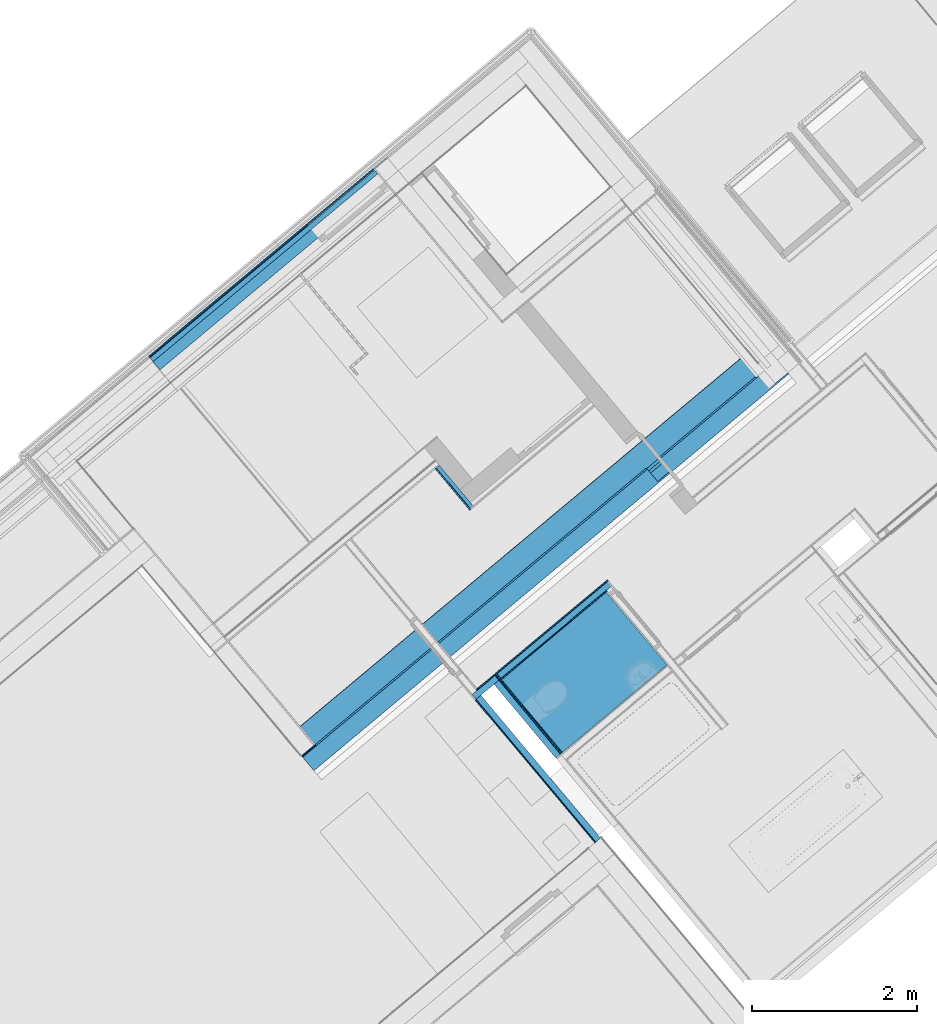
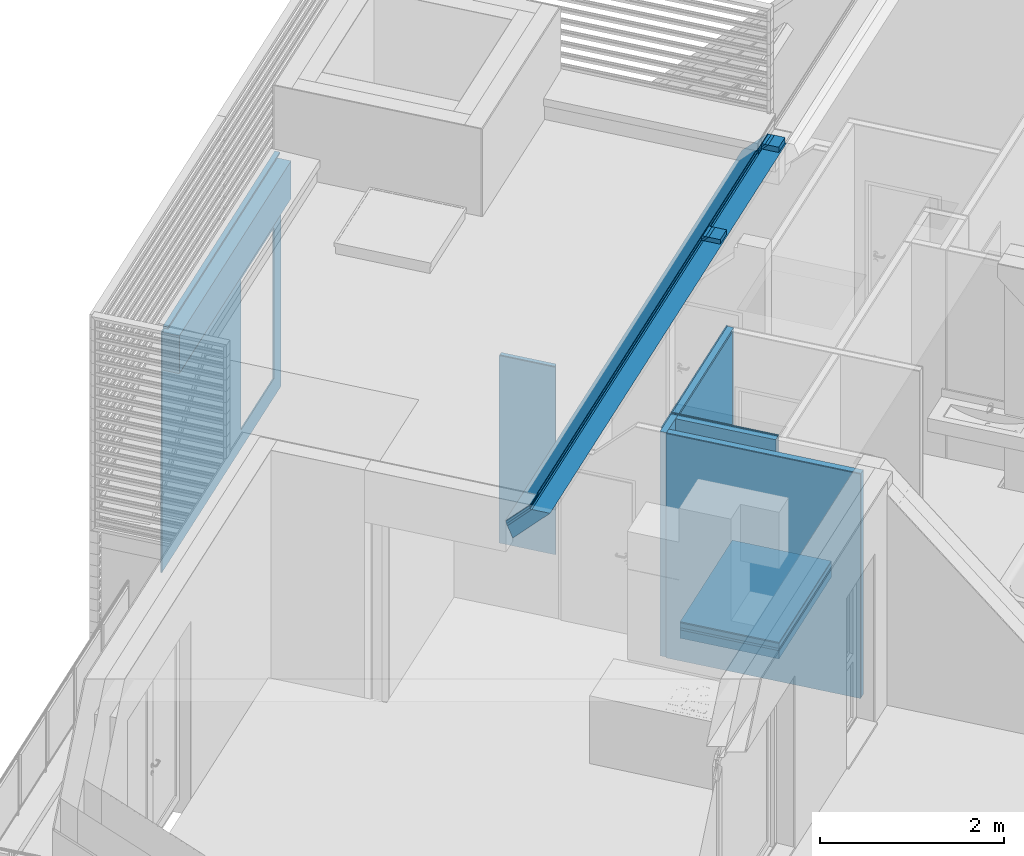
# One storey, part 25 of 50: 24 building element parts, 1 opening, 9 elements without a shape of their own.
"""IFC4 building model written with IfcOpenShell, lengths in metres."""

from ifc_helpers import new_model, entity, si_unit, converted_unit, derived_unit, direction, frame, origin_with_axes, place, context, subcontext, project, spatial, polygons, material, type_object, element, aggregate, save


model = new_model("IFC4")

# Units and contexts
model_context = context("Model", 3, precision=1e-05, world=origin_with_axes(), true_north=direction((0.0, 1.0)))
body_context = subcontext(model_context, "Body", "Model", "MODEL_VIEW")
ifc_project = project(units=[si_unit("LENGTHUNIT", "METRE"), si_unit("AREAUNIT", "SQUARE_METRE"), si_unit("VOLUMEUNIT", "CUBIC_METRE"), converted_unit("PLANEANGLEUNIT", "DEGREE", entity("IfcPlaneAngleMeasure", 0.0174532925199), si_unit("PLANEANGLEUNIT", "RADIAN"), dimensions=[0, 0, 0, 0, 0, 0, 0]), converted_unit("TIMEUNIT", "Year", entity("IfcTimeMeasure", 31556926.0), si_unit("TIMEUNIT", "SECOND"), dimensions=[0, 0, 1, 0, 0, 0, 0]), si_unit("MASSUNIT", "GRAM", prefix="KILO"), si_unit("THERMODYNAMICTEMPERATUREUNIT", "DEGREE_CELSIUS"), si_unit("LUMINOUSINTENSITYUNIT", "LUMEN"), si_unit("ENERGYUNIT", "JOULE", prefix="MEGA"), derived_unit("THERMALCONDUCTANCEUNIT", [(si_unit("POWERUNIT", "WATT"), 1), (si_unit("LENGTHUNIT", "METRE"), -1), (si_unit("THERMODYNAMICTEMPERATUREUNIT", "KELVIN"), -1)]), derived_unit("SPECIFICHEATCAPACITYUNIT", [(si_unit("ENERGYUNIT", "JOULE"), 1), (si_unit("MASSUNIT", "GRAM", prefix="KILO"), -1), (si_unit("THERMODYNAMICTEMPERATUREUNIT", "KELVIN"), -1)]), derived_unit("MASSDENSITYUNIT", [(si_unit("MASSUNIT", "GRAM", prefix="KILO"), 1), (si_unit("VOLUMEUNIT", "CUBIC_METRE"), -1)])], contexts=[model_context])

# Site, building, storey
site_placement = place(None, frame((-0.00153261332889, -0.00661245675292, 0.0), z_axis=(0.0, 0.0, 1.0), x_axis=(1.0, 0.0, 0.0)))
site = spatial("IfcSite", under=ifc_project, at=site_placement, Name="Gelände", CompositionType="ELEMENT")
building_placement = place(site_placement, origin_with_axes())
building = spatial("IfcBuilding", under=site, at=building_placement, Name="Gebäude", CompositionType="ELEMENT")
storey_placement = place(building_placement, frame((0.0, 0.0, 8.66), z_axis=(0.0, 0.0, 1.0), x_axis=(1.0, 0.0, 0.0)))
storey = spatial("IfcBuildingStorey", under=building, at=storey_placement, Name="DG2", CompositionType="ELEMENT", Elevation=8.66)

# Wall, building element parts
wall_type_1 = type_object("IfcWallType", Name="LB 9,0 cm einfache Vorsatzschale  90", PredefinedType="NOTDEFINED")
wall_1_placement = place(storey_placement, frame((2.50035930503, 17.974688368, 0.0), z_axis=(0.0, 0.0, 1.0), x_axis=(-0.642552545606, 0.766241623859, 0.0)))
wall_1 = element("IfcWall", 1, at=wall_1_placement, inside=storey, type_object=wall_type_1, Name="Wand-006", PredefinedType="NOTDEFINED")
ifc_material_1 = material(Name="Gipskarton")
building_element_part_1_placement = place(wall_1_placement, origin_with_axes())
building_element_part_1 = element("IfcBuildingElementPart", 2, at=building_element_part_1_placement, material=ifc_material_1, Name="Gipskarton", PredefinedType="NOTDEFINED", context=body_context, shape_type="Tessellation", body=[
    polygons([(2.25310830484, 0.09, 0.0), (2.25310830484, 0.075, 0.0), (0.0, 0.075, 0.0), (0.0, 0.09, 0.0), (2.25310830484, 0.09, 2.98), (2.25310830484, 0.075, 2.98), (0.0, 0.075, 2.98), (0.0, 0.09, 2.98)], [[[1, 2, 3, 4]], [[1, 5, 6, 2]], [[2, 6, 7, 3]], [[4, 3, 7, 8]], [[5, 1, 4, 8]], [[6, 5, 8, 7]]], closed=True),
])
ifc_material_2 = material(Name="Mineralwolle weich")
building_element_part_2_placement = place(wall_1_placement, origin_with_axes())
building_element_part_2 = element("IfcBuildingElementPart", 3, at=building_element_part_2_placement, material=ifc_material_2, Name="Mineralwolle weich", PredefinedType="NOTDEFINED", context=body_context, shape_type="Tessellation", body=[
    polygons([(2.25310830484, 0.075, 0.0), (2.25310830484, 0.0555944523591, 0.0), (2.2528775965, 0.0, 0.0), (0.0, 0.0, 0.0), (0.0, 0.075, 0.0), (2.25310830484, 0.075, 2.98), (2.25310830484, 0.0555944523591, 2.98), (2.2528775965, 0.0, 2.98), (0.0, 0.0, 2.98), (0.0, 0.075, 2.98)], [[[1, 2, 3, 4, 5]], [[1, 6, 7, 2]], [[2, 7, 8, 3]], [[8, 9, 4, 3]], [[5, 4, 9, 10]], [[6, 1, 5, 10]], [[7, 6, 10, 9, 8]]], closed=True),
])
aggregate(wall_1, [building_element_part_1, building_element_part_2])

wall_type_2 = type_object("IfcWallType", Name="LB 10,5 cm doppelte Vorsatzschale Bad 105", PredefinedType="NOTDEFINED")
wall_2_placement = place(storey_placement, frame((1.29391531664, 19.901459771, 0.0), z_axis=(0.0, 0.0, 1.0), x_axis=(0.641209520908, -0.767365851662, 0.0)))
wall_2 = element("IfcWall", 4, at=wall_2_placement, inside=storey, type_object=wall_type_2, Name="Wand-004", PredefinedType="NOTDEFINED")
building_element_part_3_placement = place(wall_2_placement, origin_with_axes())
building_element_part_3 = element("IfcBuildingElementPart", 5, at=building_element_part_3_placement, material=ifc_material_1, Name="Gipskarton", PredefinedType="NOTDEFINED", context=body_context, shape_type="Tessellation", body=[
    polygons([(1.16178734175, 0.0, 0.0), (1.16178734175, -0.015, 0.0), (-0.090036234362, -0.015, 0.0), (-0.0900002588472, 0.0, 0.0), (1.16178734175, 0.0, 2.98), (1.16178734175, -0.015, 2.98), (-0.090036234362, -0.015, 2.98), (-0.0900002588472, 0.0, 2.98)], [[[1, 2, 3, 4]], [[1, 5, 6, 2]], [[2, 6, 7, 3]], [[4, 3, 7, 8]], [[5, 1, 4, 8]], [[6, 5, 8, 7]]], closed=True),
])
building_element_part_4_placement = place(wall_2_placement, origin_with_axes())
building_element_part_4 = element("IfcBuildingElementPart", 6, at=building_element_part_4_placement, material=ifc_material_1, Name="Gipskarton", PredefinedType="NOTDEFINED", context=body_context, shape_type="Tessellation", body=[
    polygons([(1.16178734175, -0.015, 0.0), (1.16178734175, -0.03, 0.0), (-0.0750721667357, -0.03, 0.0), (-0.0750361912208, -0.015, 0.0), (1.16178734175, -0.015, 2.98), (1.16178734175, -0.03, 2.98), (-0.0750721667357, -0.03, 2.98), (-0.0750361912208, -0.015, 2.98)], [[[1, 2, 3, 4]], [[1, 5, 6, 2]], [[2, 6, 7, 3]], [[4, 3, 7, 8]], [[5, 1, 4, 8]], [[6, 5, 8, 7]]], closed=True),
])
building_element_part_5_placement = place(wall_2_placement, origin_with_axes())
building_element_part_5 = element("IfcBuildingElementPart", 7, at=building_element_part_5_placement, material=ifc_material_2, Name="Mineralwolle weich", PredefinedType="NOTDEFINED", context=body_context, shape_type="Tessellation", body=[
    polygons([(1.16178734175, -0.03, 0.0), (1.16178734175, -0.105, 0.0), (-0.000251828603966, -0.105, 0.0), (-7.19510297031e-05, -0.03, 0.0), (1.16178734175, -0.03, 2.98), (1.16178734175, -0.105, 2.98), (-0.000251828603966, -0.105, 2.98), (-7.19510297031e-05, -0.03, 2.98)], [[[1, 2, 3, 4]], [[1, 5, 6, 2]], [[2, 6, 7, 3]], [[4, 3, 7, 8]], [[5, 1, 4, 8]], [[6, 5, 8, 7]]], closed=True),
])
aggregate(wall_2, [building_element_part_3, building_element_part_4, building_element_part_5])

wall_type_3 = type_object("IfcWallType", Name="IW LB 01 Leichtbautrennwand einfach 10,5 cm 105", PredefinedType="NOTDEFINED")
wall_3_placement = place(storey_placement, frame((1.30353329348, 19.8899494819, 0.0), z_axis=(0.0, 0.0, 1.0), x_axis=(0.767365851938, 0.641209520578, 0.0)))
wall_3 = element("IfcWall", 8, at=wall_3_placement, inside=storey, type_object=wall_type_3, Name="Wand-013", PredefinedType="NOTDEFINED")
building_element_part_6_placement = place(wall_3_placement, origin_with_axes())
building_element_part_6 = element("IfcBuildingElementPart", 9, at=building_element_part_6_placement, material=ifc_material_1, Name="Gipskarton", PredefinedType="NOTDEFINED", context=body_context, shape_type="Tessellation", body=[
    polygons([(1.75313899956, 0.09, 0.0), (0.0, 0.09, 0.0), (0.0, 0.105, 0.0), (1.7531388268, 0.105, 0.0), (1.75313899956, 0.09, 2.98), (0.0, 0.09, 2.98), (0.0, 0.105, 2.98), (1.7531388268, 0.105, 2.98)], [[[1, 2, 3, 4]], [[5, 6, 2, 1]], [[3, 2, 6, 7]], [[4, 3, 7, 8]], [[4, 8, 5, 1]], [[8, 7, 6, 5]]], closed=True),
])
building_element_part_7_placement = place(wall_3_placement, origin_with_axes())
building_element_part_7 = element("IfcBuildingElementPart", 10, at=building_element_part_7_placement, material=ifc_material_2, Name="Mineralwolle weich", PredefinedType="NOTDEFINED", context=body_context, shape_type="Tessellation", body=[
    polygons([(1.73813986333, 0.015, 0.0), (0.0, 0.015, 0.0), (0.0, 0.09, 0.0), (1.73813899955, 0.09, 0.0), (1.73813986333, 0.015, 2.98), (0.0, 0.015, 2.98), (0.0, 0.09, 2.98), (1.73813899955, 0.09, 2.98)], [[[1, 2, 3, 4]], [[5, 6, 2, 1]], [[3, 2, 6, 7]], [[4, 3, 7, 8]], [[4, 8, 5, 1]], [[8, 7, 6, 5]]], closed=True),
])
building_element_part_8_placement = place(wall_3_placement, origin_with_axes())
building_element_part_8 = element("IfcBuildingElementPart", 11, at=building_element_part_8_placement, material=ifc_material_1, Name="Gipskarton", PredefinedType="NOTDEFINED", context=body_context, shape_type="Tessellation", body=[
    polygons([(1.66314003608, 0.0, 0.0), (0.0, 0.0, 0.0), (0.0, 0.015, 0.0), (1.66313986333, 0.015, 0.0), (1.66314003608, 0.0, 2.98), (0.0, 0.0, 2.98), (0.0, 0.015, 2.98), (1.66313986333, 0.015, 2.98)], [[[1, 2, 3, 4]], [[5, 6, 2, 1]], [[3, 2, 6, 7]], [[4, 3, 7, 8]], [[4, 8, 5, 1]], [[8, 7, 6, 5]]], closed=True),
])
aggregate(wall_3, [building_element_part_6, building_element_part_7, building_element_part_8])

wall_type_4 = type_object("IfcWallType", Name="LB 6,5 cm einfach Vorsatzschale 65", PredefinedType="NOTDEFINED")
wall_4_placement = place(storey_placement, frame((0.443936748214, 22.5065523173, 0.0), z_axis=(0.0, 0.0, 1.0), x_axis=(0.641209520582, -0.767365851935, 0.0)))
wall_4 = element("IfcWall", 12, at=wall_4_placement, inside=storey, type_object=wall_type_4, Name="Wand-005", PredefinedType="NOTDEFINED")
building_element_part_9_placement = place(wall_4_placement, origin_with_axes())
building_element_part_9 = element("IfcBuildingElementPart", 13, at=building_element_part_9_placement, material=ifc_material_2, Name="Mineralwolle weich", PredefinedType="NOTDEFINED", context=body_context, shape_type="Tessellation", body=[
    polygons([(0.0899993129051, 0.065, 0.0), (0.0899961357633, 0.015, 0.0), (0.0899961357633, 0.0149999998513, 2.48999999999), (0.0899993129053, 0.0650000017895, 2.48999999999), (0.727163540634, 0.065, 0.0), (0.727139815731, 0.015, 0.0), (0.727139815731, 0.014999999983, 2.49), (0.727163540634, 0.0650000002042, 2.49)], [[[1, 2, 3, 4]], [[2, 1, 5, 6]], [[3, 2, 6, 7]], [[3, 7, 8, 4]], [[5, 1, 4, 8]], [[7, 6, 5, 8]]], closed=True),
])
building_element_part_10_placement = place(wall_4_placement, origin_with_axes())
building_element_part_10 = element("IfcBuildingElementPart", 14, at=building_element_part_10_placement, material=ifc_material_1, Name="Gipskarton", PredefinedType="NOTDEFINED", context=body_context, shape_type="Tessellation", body=[
    polygons([(0.0899951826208, 0.0, 2.48999999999), (0.0899961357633, 0.0149999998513, 2.48999999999), (0.0899961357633, 0.015, 0.0), (0.0899951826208, 0.0, 0.0), (0.742132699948, 0.0, 2.49), (0.742139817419, 0.0149999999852, 2.49), (0.742139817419, 0.015, 0.0), (0.742132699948, 0.0, 0.0)], [[[1, 2, 3, 4]], [[2, 1, 5, 6]], [[3, 2, 6, 7]], [[4, 3, 7, 8]], [[1, 4, 8, 5]], [[5, 8, 7, 6]]], closed=True),
])
aggregate(wall_4, [building_element_part_9, building_element_part_10])

# Space
space_1_placement = place(storey_placement, frame((-3.1056460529, 21.2099336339, 0.22), z_axis=(0.0, 0.0, 1.0), x_axis=(-0.767365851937, -0.641209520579, 0.0)))
space_1 = spatial("IfcSpace", under=storey, at=space_1_placement, CompositionType="ELEMENT", PredefinedType="NOTDEFINED")

# Roof, building element parts
roof_type = type_object("IfcRoofType", Name="Schrägdach Dachaufbau 210", PredefinedType="NOTDEFINED")
roof_placement = place(space_1_placement, frame((0.125000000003, 1.11099143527, 0.780508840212), z_axis=(0.0, 0.0, 1.0), x_axis=(-0.999999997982, 6.35246525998e-05, 0.0)))
roof = element("IfcRoof", 15, at=roof_placement, inside=space_1, type_object=roof_type, Name="Dach-001", PredefinedType="NOTDEFINED")
ifc_material_3 = material(Name="Stehfalz")
building_element_part_11_placement = place(roof_placement, origin_with_axes())
building_element_part_11 = element("IfcBuildingElementPart", 16, at=building_element_part_11_placement, material=ifc_material_3, Name="Stehfalz", PredefinedType="NOTDEFINED", context=body_context, shape_type="Tessellation", body=[
    polygons([(7.36386656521, -1.90145997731, 2.19844482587), (7.69582473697, -1.90143888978, 2.19842373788), (7.69585686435, -1.59945626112, 1.89644110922), (0.21534161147, -1.5994911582, 1.8964760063), (0.215455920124, -1.9019140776, 2.1988989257), (0.43012079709, -1.90190044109, 2.19888528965), (0.430119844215, -1.88690041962, 2.18388526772), (7.36387213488, -1.88645995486, 2.18344480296), (7.69582521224, -1.90143888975, 2.18949115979), (7.36386656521, -1.90145997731, 2.18430269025), (7.4959184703, -1.90145158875, 2.18429430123), (7.49591847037, -1.90145158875, 2.18949115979), (7.69582493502, -1.90664844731, 2.18949115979), (7.69585717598, -1.60359839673, 1.88644110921), (0.215340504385, -1.60363329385, 1.88647600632), (0.215453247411, -1.90191407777, 2.18475679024), (0.215447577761, -1.88691405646, 2.16975676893), (0.215449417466, -1.8869140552, 2.1794911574), (0.215451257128, -1.89664844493, 2.17949115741), (0.430120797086, -1.90190044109, 2.18474315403), (0.430120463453, -1.89664844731, 2.17949115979), (0.430119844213, -1.88690041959, 2.17949115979), (5.8452008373, -1.88655642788, 2.16939914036), (7.39592402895, -1.88645791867, 2.16930063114), (7.39592402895, -1.88645791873, 2.17818655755), (7.36482942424, -1.88645989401, 2.17818656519), (7.36387213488, -1.88645995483, 2.17914383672), (5.64520081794, -1.88656913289, 2.16941184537), (5.64520081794, -1.88656913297, 2.17949115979), (5.8452008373, -1.88655642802, 2.17949115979), (7.36386848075, -1.89630112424, 2.17914383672), (7.36482612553, -1.89534385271, 2.17818656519), (7.39592072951, -1.89534384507, 2.17818655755), (5.84519699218, -1.89664844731, 2.17949115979), (5.64519697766, -1.89664844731, 2.17949115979), (7.49591654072, -1.90664844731, 2.18949115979)], [[[1, 2, 3, 4, 5, 6, 7, 8]], [[9, 2, 1, 10, 11, 12]], [[2, 9, 13, 14, 3]], [[4, 3, 14, 15]], [[16, 5, 4, 15, 17, 18, 19]], [[20, 6, 5, 16]], [[6, 20, 21, 22, 7]], [[23, 24, 25, 26, 27, 8, 7, 22, 18, 17, 28, 29, 30]], [[10, 1, 8, 27, 31]], [[11, 10, 31, 32, 33, 24, 23, 34, 35, 28, 17, 15, 14, 13, 36]], [[11, 36, 12]], [[36, 13, 9, 12]], [[21, 19, 18, 22]], [[20, 16, 19, 21]], [[24, 33, 25]], [[33, 32, 26, 25]], [[32, 31, 27, 26]], [[28, 35, 29]], [[35, 34, 30, 29]], [[34, 23, 30]]], closed=True),
])
ifc_material_4 = material(Name="Bauholz")
building_element_part_12_placement = place(roof_placement, origin_with_axes())
building_element_part_12 = element("IfcBuildingElementPart", 17, at=building_element_part_12_placement, material=ifc_material_4, Name="Bauholz", PredefinedType="NOTDEFINED", context=body_context, shape_type="Tessellation", body=[
    polygons([(0.215453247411, -1.90191407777, 2.18475679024), (0.430120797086, -1.90190044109, 2.18474315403), (0.430120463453, -1.89664844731, 2.17949115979), (0.215451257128, -1.89664844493, 2.17949115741), (0.430120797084, -1.90190044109, 2.17949115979), (0.215452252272, -1.90191407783, 2.1794911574)], [[[1, 2, 3, 4]], [[5, 2, 1, 6]], [[2, 5, 3]], [[5, 6, 4, 3]], [[6, 1, 4]]], closed=True),
    polygons([(7.49591846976, -1.90145158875, 2.14893896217), (7.39591845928, -1.90145794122, 2.1489453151), (7.39592402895, -1.8864579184, 2.13394529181), (5.8452008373, -1.8865564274, 2.13404380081), (5.84518352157, -1.93200378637, 2.17949115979), (5.64518350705, -1.93200378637, 2.17949115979), (5.64520081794, -1.88656913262, 2.13405650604), (0.215440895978, -1.8869140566, 2.13440143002), (0.215337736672, -1.61398863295, 1.86147600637), (7.69585795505, -1.61395373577, 1.86144110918), (7.69582305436, -1.94200378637, 2.18949115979), (7.4959034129, -1.94200378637, 2.18949115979), (7.4959184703, -1.90145158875, 2.18429430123), (7.36386656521, -1.90145997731, 2.18430269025), (7.36386656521, -1.90145997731, 2.17914383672), (7.36482385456, -1.90145991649, 2.17818656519), (7.39591845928, -1.90145794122, 2.17818655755), (7.39592072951, -1.89534384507, 2.17818655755), (7.39592402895, -1.88645791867, 2.16930063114), (5.8452008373, -1.88655642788, 2.16939914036), (5.84519699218, -1.89664844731, 2.17949115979), (5.64519697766, -1.89664844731, 2.17949115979), (5.64520081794, -1.88656913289, 2.16941184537), (0.215447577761, -1.88691405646, 2.16975676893), (0.215340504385, -1.60363329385, 1.88647600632), (7.69585717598, -1.60359839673, 1.88644110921), (7.69582493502, -1.90664844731, 2.18949115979), (7.49591654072, -1.90664844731, 2.18949115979), (7.36482612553, -1.89534385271, 2.17818656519), (7.36386848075, -1.89630112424, 2.17914383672)], [[[1, 2, 3, 4, 5, 6, 7, 8, 9, 10, 11, 12]], [[13, 14, 15, 16, 17, 2, 1]], [[2, 17, 18, 19, 3]], [[19, 20, 4, 3]], [[5, 4, 20, 21]], [[6, 5, 21, 22]], [[6, 22, 23, 7]], [[23, 24, 8, 7]], [[8, 24, 25, 9]], [[25, 26, 10, 9]], [[27, 11, 10, 26]], [[12, 11, 27, 28]], [[1, 12, 28, 13]], [[28, 27, 26, 25, 24, 23, 22, 21, 20, 19, 18, 29, 30, 14, 13]], [[15, 14, 30]], [[16, 15, 30, 29]], [[17, 16, 29, 18]]], closed=True),
])
ifc_material_5 = material(Name="Luftschicht horizontal")
building_element_part_13_placement = place(roof_placement, origin_with_axes())
building_element_part_13 = element("IfcBuildingElementPart", 18, at=building_element_part_13_placement, material=ifc_material_5, Name="Luftschicht horizontal", PredefinedType="NOTDEFINED", context=body_context, shape_type="Tessellation", body=[
    polygons([(7.69582305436, -1.94200378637, 2.18949115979), (7.69582117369, -1.97735912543, 2.18949115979), (7.69585873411, -1.6243090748, 1.83644110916), (7.69585795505, -1.61395373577, 1.86144110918), (7.49589028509, -1.97735912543, 2.18949115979), (7.4959034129, -1.94200378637, 2.18949115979), (5.64519289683, -1.90735912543, 2.11949115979), (0.215441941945, -1.90735912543, 2.11949115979), (0.215334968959, -1.62434397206, 1.83647600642), (7.49591627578, -1.90735912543, 2.11949115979), (5.84519291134, -1.90735912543, 2.11949115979), (5.84517005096, -1.96735912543, 2.17949115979), (5.64517003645, -1.96735912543, 2.17949115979), (0.215337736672, -1.61398863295, 1.86147600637), (0.215440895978, -1.8869140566, 2.13440143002), (5.64520081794, -1.88656913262, 2.13405650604), (5.64518350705, -1.93200378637, 2.17949115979), (5.84518352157, -1.93200378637, 2.17949115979), (5.8452008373, -1.8865564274, 2.13404380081), (7.39592402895, -1.8864579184, 2.13394529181), (7.39591845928, -1.90145794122, 2.1489453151), (7.49591846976, -1.90145158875, 2.14893896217), (7.49591846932, -1.90145158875, 2.11949115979), (5.64520081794, -1.88656913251, 2.11949115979), (0.215438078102, -1.88691405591, 2.11949115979), (7.39591845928, -1.90145794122, 2.11949115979), (7.39592402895, -1.88645791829, 2.11949115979), (5.8452008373, -1.8865564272, 2.11949115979)], [[[1, 2, 3, 4]], [[5, 2, 1, 6]], [[7, 8, 9, 3, 2, 5, 10, 11, 12, 13]], [[14, 4, 3, 9]], [[6, 1, 4, 14, 15, 16, 17, 18, 19, 20, 21, 22]], [[10, 5, 6, 22, 23]], [[8, 7, 24, 25]], [[8, 25, 15, 14, 9]], [[11, 10, 23, 26, 27, 28]], [[18, 12, 11, 28, 19]], [[13, 12, 18, 17]], [[7, 13, 17, 16, 24]], [[16, 15, 25, 24]], [[20, 19, 28, 27]], [[26, 21, 20, 27]], [[22, 21, 26, 23]]], closed=True),
])
ifc_material_6 = material(Name="EPS 1")
building_element_part_14_placement = place(roof_placement, origin_with_axes())
building_element_part_14 = element("IfcBuildingElementPart", 19, at=building_element_part_14_placement, material=ifc_material_6, Name="EPS 1", PredefinedType="NOTDEFINED", context=body_context, shape_type="Tessellation", body=[
    polygons([(7.69581457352, -2.10143885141, 2.18949115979), (7.69581829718, -2.10143885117, 2.11949115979), (7.69581733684, -2.11949115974, 2.11949115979), (7.69586340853, -1.68644110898, 1.68644110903), (7.69585873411, -1.6243090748, 1.83644110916), (7.69582117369, -1.97735912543, 2.18949115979), (7.49584420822, -2.10145155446, 2.18949115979), (7.49584420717, -2.10145155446, 2.11949115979), (5.84511892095, -2.1015564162, 2.11949115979), (5.64511890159, -2.10156912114, 2.11949115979), (5.64519289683, -1.90735912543, 2.11949115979), (0.215441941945, -1.90735912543, 2.11949115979), (0.215482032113, -2.11949115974, 2.11949115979), (7.49591627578, -1.90735912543, 2.11949115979), (5.84519291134, -1.90735912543, 2.11949115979), (0.215318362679, -1.68647600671, 1.68647600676), (0.215334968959, -1.62434397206, 1.83647600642), (7.49589028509, -1.97735912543, 2.18949115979), (5.64517003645, -1.96735912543, 2.17949115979), (5.84517005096, -1.96735912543, 2.17949115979), (5.84511892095, -2.1015564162, 2.17949115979), (5.64511890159, -2.10156912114, 2.17949115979)], [[[1, 2, 3, 4, 5, 6]], [[2, 1, 7, 8]], [[9, 10, 11, 12, 13, 3, 2, 8, 14, 15]], [[3, 13, 16, 4]], [[17, 5, 4, 16]], [[18, 6, 5, 17, 12, 11, 19, 20, 15, 14]], [[7, 1, 6, 18]], [[8, 7, 18, 14]], [[9, 21, 22, 10]], [[10, 22, 19, 11]], [[13, 12, 17, 16]], [[21, 9, 15, 20]], [[22, 21, 20, 19]]], closed=True),
])
aggregate(roof, [building_element_part_11, building_element_part_12, building_element_part_13, building_element_part_14])

# Covering, building element parts
covering_type = type_object("IfcCoveringType", Name="DE 01 Decke Wohnung/Wohnung Fließen 220", PredefinedType="NOTDEFINED")
covering_placement = place(storey_placement, frame((1.30353329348, 19.8899494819, 0.22), z_axis=(0.0, 0.0, 1.0), x_axis=(1.0, 0.0, 0.0)))
covering = element("IfcCovering", 20, at=covering_placement, inside=storey, type_object=covering_type, Name="Decke-004", PredefinedType="NOTDEFINED")
ifc_material_7 = material(Name="Fliesen")
building_element_part_15_placement = place(covering_placement, origin_with_axes())
building_element_part_15 = element("IfcBuildingElementPart", 21, at=building_element_part_15_placement, material=ifc_material_7, Name="Fliesen", PredefinedType="NOTDEFINED", context=body_context, shape_type="Tessellation", body=[
    polygons([(0.73533112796, -0.880005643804, -0.015), (0.73533112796, -0.880005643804, 0.0), (0.0, 0.0, 0.0), (0.0, 0.0, -0.015), (2.00053493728, 0.176246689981, -0.015), (2.00053493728, 0.176246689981, 0.0), (1.2647263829, 1.05680308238, 0.0), (1.2647263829, 1.05680308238, -0.015)], [[[1, 2, 3, 4]], [[5, 6, 2, 1]], [[3, 2, 6, 7]], [[4, 3, 7, 8]], [[4, 8, 5, 1]], [[8, 7, 6, 5]]], closed=True),
])
ifc_material_8 = material(Name="Estrich")
building_element_part_16_placement = place(covering_placement, origin_with_axes())
building_element_part_16 = element("IfcBuildingElementPart", 22, at=building_element_part_16_placement, material=ifc_material_8, Name="Estrich", PredefinedType="NOTDEFINED", context=body_context, shape_type="Tessellation", body=[
    polygons([(0.73533112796, -0.880005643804, -0.08), (0.73533112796, -0.880005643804, -0.015), (0.0, 0.0, -0.015), (0.0, 0.0, -0.08), (2.00053493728, 0.176246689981, -0.08), (2.00053493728, 0.176246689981, -0.015), (1.2647263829, 1.05680308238, -0.015), (1.2647263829, 1.05680308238, -0.08)], [[[1, 2, 3, 4]], [[5, 6, 2, 1]], [[3, 2, 6, 7]], [[4, 3, 7, 8]], [[4, 8, 5, 1]], [[8, 7, 6, 5]]], closed=True),
])
ifc_material_9 = material(Name="Trittschalldämmung")
building_element_part_17_placement = place(covering_placement, origin_with_axes())
building_element_part_17 = element("IfcBuildingElementPart", 23, at=building_element_part_17_placement, material=ifc_material_9, Name="Trittschalldämmung", PredefinedType="NOTDEFINED", context=body_context, shape_type="Tessellation", body=[
    polygons([(0.73533112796, -0.880005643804, -0.11), (0.73533112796, -0.880005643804, -0.08), (0.0, 0.0, -0.08), (0.0, 0.0, -0.11), (2.00053493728, 0.176246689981, -0.11), (2.00053493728, 0.176246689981, -0.08), (1.2647263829, 1.05680308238, -0.08), (1.2647263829, 1.05680308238, -0.11)], [[[1, 2, 3, 4]], [[5, 6, 2, 1]], [[3, 2, 6, 7]], [[4, 3, 7, 8]], [[4, 8, 5, 1]], [[8, 7, 6, 5]]], closed=True),
])
ifc_material_10 = material(Name="Schüttung")
building_element_part_18_placement = place(covering_placement, origin_with_axes())
building_element_part_18 = element("IfcBuildingElementPart", 24, at=building_element_part_18_placement, material=ifc_material_10, Name="Schüttung", PredefinedType="NOTDEFINED", context=body_context, shape_type="Tessellation", body=[
    polygons([(0.0, 0.0, -0.22), (0.73533112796, -0.880005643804, -0.22), (0.73533112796, -0.880005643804, -0.11), (0.0, 0.0, -0.11), (1.2647263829, 1.05680308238, -0.22), (2.00053493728, 0.176246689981, -0.22), (2.00053493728, 0.176246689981, -0.11), (1.2647263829, 1.05680308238, -0.11)], [[[1, 2, 3, 4]], [[1, 5, 6, 2]], [[2, 6, 7, 3]], [[4, 3, 7, 8]], [[5, 1, 4, 8]], [[6, 5, 8, 7]]], closed=True),
])
aggregate(covering, [building_element_part_15, building_element_part_16, building_element_part_17, building_element_part_18])

# Space
space_2_placement = place(storey_placement, frame((1.05261882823, 19.7011137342, 0.0), z_axis=(0.0, 0.0, 1.0), x_axis=(0.642552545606, -0.766241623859, 0.0)))
space_2 = spatial("IfcSpace", under=storey, at=space_2_placement, CompositionType="ELEMENT", PredefinedType="NOTDEFINED")

# Wall, building element parts
wall_5_placement = place(space_2_placement, frame((-0.00014277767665, -0.08999999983, 0.0), z_axis=(0.0, 0.0, 1.0), x_axis=(0.00414980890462, 0.999991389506, 0.0)))
wall_5 = element("IfcWall", 25, at=wall_5_placement, inside=space_2, type_object=wall_type_1, Name="Wand-006", PredefinedType="NOTDEFINED")
building_element_part_19_placement = place(wall_5_placement, origin_with_axes())
building_element_part_19 = element("IfcBuildingElementPart", 26, at=building_element_part_19_placement, material=ifc_material_1, Name="Gipskarton", PredefinedType="NOTDEFINED", context=body_context, shape_type="Tessellation", body=[
    polygons([(0.388447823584, 0.075, 0.0), (0.0896849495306, 0.075, 0.0), (0.089621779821, 0.09, 0.0), (0.388411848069, 0.09, 0.0), (0.388447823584, 0.075, 2.98), (0.0896849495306, 0.075, 2.98), (0.089621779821, 0.09, 2.98), (0.388411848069, 0.09, 2.98)], [[[1, 2, 3, 4]], [[5, 6, 2, 1]], [[3, 2, 6, 7]], [[4, 3, 7, 8]], [[4, 8, 5, 1]], [[8, 7, 6, 5]]], closed=True),
])
building_element_part_20_placement = place(wall_5_placement, origin_with_axes())
building_element_part_20 = element("IfcBuildingElementPart", 27, at=building_element_part_20_placement, material=ifc_material_2, Name="Mineralwolle weich", PredefinedType="NOTDEFINED", context=body_context, shape_type="Tessellation", body=[
    polygons([(0.373447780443, 0.075, 0.0), (0.373627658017, 0.0, 0.0), (0.0150001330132, 0.0, 0.0), (0.0146888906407, 0.075, 0.0), (0.373447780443, 0.075, 2.98), (0.373627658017, 0.0, 2.98), (0.0150001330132, 0.0, 2.98), (0.0146888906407, 0.075, 2.98)], [[[1, 2, 3, 4]], [[2, 1, 5, 6]], [[2, 6, 7, 3]], [[8, 4, 3, 7]], [[5, 1, 4, 8]], [[6, 5, 8, 7]]], closed=True),
])
aggregate(wall_5, [building_element_part_19, building_element_part_20])

# Space
space_3_placement = place(storey_placement, frame((0.280300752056, 22.6307267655, 0.22), z_axis=(0.0, 0.0, 1.0), x_axis=(-0.641244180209, 0.767336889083, 0.0)))
space_3 = spatial("IfcSpace", under=storey, at=space_3_placement, CompositionType="ELEMENT", PredefinedType="NOTDEFINED")

# Wall, building element parts
wall_type_5 = type_object("IfcWallType", Name="Bauteil - Attika 574 x 610", PredefinedType="NOTDEFINED")
wall_6_placement = place(space_3_placement, frame((2.76028949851, -1.79824961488, 2.47), z_axis=(0.0, 0.0, 1.0), x_axis=(4.51805432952e-05, 0.999999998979, 0.0)))
wall_6 = element("IfcWall", 28, at=wall_6_placement, inside=space_3, type_object=wall_type_5, Name="Wand-004", PredefinedType="NOTDEFINED")
building_element_part_21_placement = place(wall_6_placement, origin_with_axes())
building_element_part_21 = element("IfcBuildingElementPart", 29, at=building_element_part_21_placement, material=ifc_material_6, Name="EPS 1", PredefinedType="NOTDEFINED", context=body_context, shape_type="Tessellation", body=[
    polygons([(0.0, -0.19999996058, 0.5), (3.53906479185, -0.19999996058, 0.5), (3.53906479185, 2.16659046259e-09, 0.5), (0.0, 2.16659046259e-09, 0.5), (0.0, -0.19999996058, 0.0), (3.53906479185, -0.19999996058, 0.0), (3.53906479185, 2.16659046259e-09, 0.0), (0.0, 2.16659046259e-09, 0.0)], [[[1, 2, 3, 4]], [[5, 6, 2, 1]], [[3, 2, 6, 7]], [[4, 3, 7, 8]], [[5, 1, 4, 8]], [[8, 7, 6, 5]]], closed=True),
])
ifc_material_11 = material(Name="Vollholz")
building_element_part_22_placement = place(wall_6_placement, origin_with_axes())
building_element_part_22 = element("IfcBuildingElementPart", 30, at=building_element_part_22_placement, material=ifc_material_11, Name="Vollholz", PredefinedType="NOTDEFINED", context=body_context, shape_type="Tessellation", body=[
    polygons([(0.0, -0.189984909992, 0.586106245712), (3.53906479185, -0.189984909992, 0.586106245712), (3.53906479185, -0.130124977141, 0.584015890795), (0.0, -0.130124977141, 0.584015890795), (0.0, -0.190124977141, 0.560000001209), (3.53906479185, -0.190124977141, 0.560000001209), (3.53906479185, -0.130124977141, 0.560000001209), (0.0, -0.130124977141, 0.560000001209)], [[[1, 2, 3, 4]], [[5, 6, 2, 1]], [[3, 2, 6, 7]], [[4, 3, 7, 8]], [[5, 1, 4, 8]], [[8, 7, 6, 5]]], closed=True),
])
ifc_material_12 = material(Name="Zementputz")
building_element_part_23_placement = place(wall_6_placement, origin_with_axes())
building_element_part_23 = element("IfcBuildingElementPart", 31, at=building_element_part_23_placement, material=ifc_material_12, Name="Zementputz", PredefinedType="NOTDEFINED", context=body_context, shape_type="Tessellation", body=[
    polygons([(0.0, -0.199999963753, 0.0), (3.53906479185, -0.199999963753, 0.0), (3.53906479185, -0.214999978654, 0.0), (0.0, -0.214999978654, 0.0), (0.0, -0.199999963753, 0.5), (3.53906479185, -0.199999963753, 0.5), (3.53906479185, -0.214999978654, 0.5), (0.0, -0.214999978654, 0.5)], [[[1, 2, 3, 4]], [[5, 6, 2, 1]], [[3, 2, 6, 7]], [[4, 3, 7, 8]], [[5, 1, 4, 8]], [[8, 7, 6, 5]]], closed=True),
])
aggregate(wall_6, [building_element_part_21, building_element_part_22, building_element_part_23])

# Wall, opening, building element part
wall_type_6 = type_object("IfcWallType", Name="AW EG 420", PredefinedType="NOTDEFINED")
wall_7_placement = place(space_3_placement, frame((2.97544975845, 1.74681881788, -0.22), z_axis=(0.0, 0.0, 1.0), x_axis=(-4.51678713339e-05, -0.99999999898, 0.0)))
wall_7 = element("IfcWall", 32, at=wall_7_placement, inside=space_3, type_object=wall_type_6, Name="Wand-002", PredefinedType="NOTDEFINED")
opening_placement = place(wall_7_placement, frame((3.02043529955, 0.0, 0.25), z_axis=(0.0, 0.0, 1.0), x_axis=(1.0, 0.0, 0.0)))
element("IfcOpeningElement", 33, at=opening_placement, cuts=wall_7, Name="Fenster-001", context=body_context, identifier="Reference", shape_type="Tessellation", body=[
    polygons([(-0.525, -0.215, 0.0), (-0.525, -0.215, 2.0), (-0.525, 1.85102603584, 2.0), (-0.525, 1.85102603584, 0.0), (-0.525, -2.27102603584, 0.0), (-0.525, -2.27102603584, 2.0), (0.525, -0.215, 2.0), (0.525, 1.85102603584, 2.0), (0.525, -2.27102603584, 2.0), (0.525, 1.85102603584, 0.0), (0.525, -0.215, 0.0), (0.525, -2.27102603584, 0.0)], [[[1, 2, 3, 4]], [[2, 1, 5, 6]], [[7, 8, 3, 2, 6, 9]], [[8, 10, 4, 3]], [[1, 4, 10, 11, 12, 5]], [[6, 5, 12, 9]], [[7, 11, 10, 8]], [[11, 7, 9, 12]]], closed=True),
])
building_element_part_24_placement = place(wall_7_placement, origin_with_axes())
building_element_part_24 = element("IfcBuildingElementPart", 34, at=building_element_part_24_placement, material=ifc_material_12, Name="Zementputz", PredefinedType="NOTDEFINED", context=body_context, shape_type="Tessellation", body=[
    polygons([(3.75989233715, 0.0, 0.0), (0.0, 0.0, 0.0), (0.0, -1.12695417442e-07, 1.62230824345), (0.00601336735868, -1.13023890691e-07, 1.62260988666), (0.00601336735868, -1.13023890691e-07, 2.69), (3.75989233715, 0.0, 2.69), (2.49543529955, -1.13023887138e-07, 0.25), (3.54543529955, -1.13023890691e-07, 0.25), (3.54543529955, -1.13023890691e-07, 2.25), (2.49543529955, -1.13023887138e-07, 2.25), (3.75989233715, -0.015, 0.0), (0.0, -0.015, 0.0), (0.0, -0.0150001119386, 1.62230824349), (0.00601336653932, -0.0150001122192, 1.62260988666), (0.00601336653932, -0.0150001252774, 2.69), (3.75989233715, -0.015, 2.69), (2.49543529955, -0.0150001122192, 0.25), (3.54543529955, -0.0150001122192, 0.25), (3.54543529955, -0.0150001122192, 2.25), (2.49543529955, -0.0150001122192, 2.25)], [[[1, 2, 3, 4, 5, 6], [7, 8, 9, 10]], [[1, 11, 12, 2]], [[3, 2, 12, 13]], [[14, 4, 3, 13]], [[15, 5, 4, 14]], [[15, 16, 6, 5]], [[16, 11, 1, 6]], [[17, 18, 8, 7]], [[18, 19, 9, 8]], [[19, 20, 10, 9]], [[20, 17, 7, 10]], [[11, 16, 15, 14, 13, 12], [17, 20, 19, 18]]], closed=True),
])
aggregate(wall_7, [building_element_part_24])

save(model, "model.ifc")
